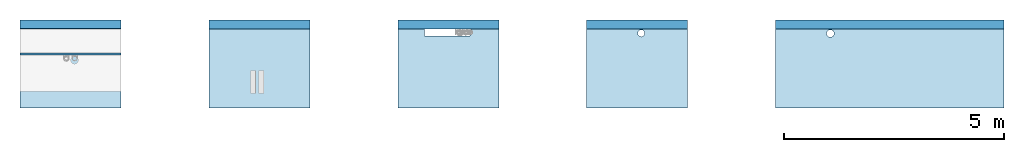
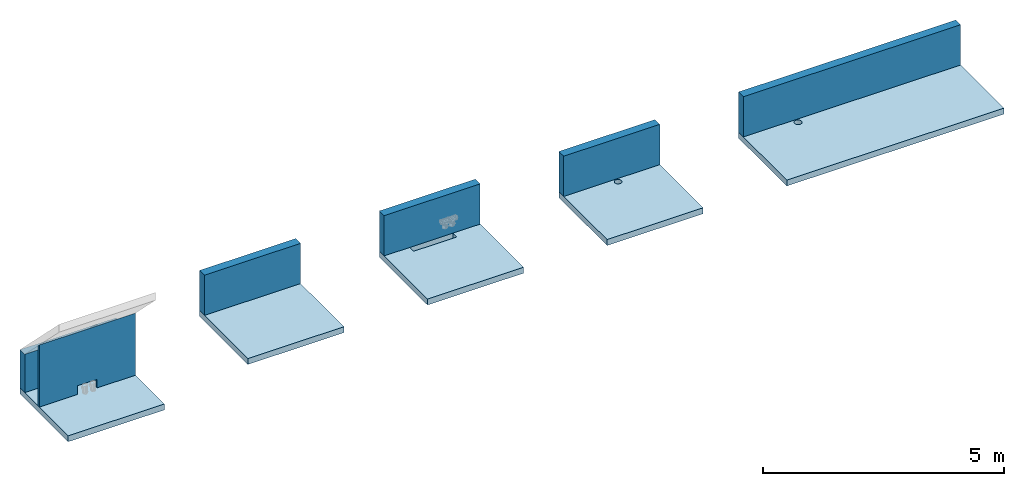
# One storey, part 1 of 3: 6 walls, 5 slabs, 1 opening.
"""IFC4 building model written with IfcOpenShell, lengths in millimetres."""

import ifcopenshell
import ifcopenshell.guid

model = None  # the IFC model being written
_history = None  # IfcOwnerHistory: only IFC2X3 demands one
_inside = {}  # id of a spatial element -> (the spatial element, [elements in it])
_under = {}  # id of a project, library or spatial element -> (it, [spatial elements below it])
_declared = {}  # id of a project -> (the project, [libraries it declares])
_typed = {}  # id of a type object -> (the type object, [elements of that type])
_made_of = {}  # id of a material, layer set ... -> (it, [elements and type objects made of it])


def new_model(schema):
    """Start an empty IFC model of exactly this schema.

    Asked for "IFC4X3", IfcOpenShell would pick the latest addendum, in which some entities
    have other attributes; the version numbers below select the first issue.
    IFC2X3 requires an IfcOwnerHistory on every rooted entity: one is made here for all.
    """
    global model, _history
    if schema == "IFC4X3":
        model = ifcopenshell.file(schema_version=(4, 3, 0, 0))
    else:
        model = ifcopenshell.file(schema=schema)
    _inside.clear()
    _under.clear()
    _declared.clear()
    _typed.clear()
    _made_of.clear()
    _history = None
    if model.schema == "IFC2X3":
        org = make("IfcOrganization", Name="unknown")
        user = make(
            "IfcPersonAndOrganization",
            ThePerson=make("IfcPerson", FamilyName="unknown"),
            TheOrganization=org,
        )
        app = make(
            "IfcApplication",
            ApplicationDeveloper=org,
            Version="unknown",
            ApplicationFullName="unknown",
            ApplicationIdentifier="unknown",
        )
        _history = make(
            "IfcOwnerHistory",
            OwningUser=user,
            OwningApplication=app,
            ChangeAction="ADDED",
            CreationDate=0,
        )
    return model


def make(cls, **values):
    """One entity of the class cls with the attributes given. An attribute that is None is left unset."""
    return model.create_entity(
        cls, **{name: value for name, value in values.items() if value is not None}
    )


def entity(cls, *values):
    """Any entity or typed value of the class cls, its attributes in the order of the schema. None: left unset."""
    e = model.create_entity(cls)
    for i, value in enumerate(values):
        if value is not None:
            e[i] = value
    return e


def rooted(cls, **values):
    """An entity with a GlobalId (a new one), such as an element, a storey or a relation."""
    return make(cls, GlobalId=ifcopenshell.guid.new(), OwnerHistory=_history, **values)


def si_unit(unit_type, name, prefix=None):
    """IfcSIUnit, for example si_unit("LENGTHUNIT", "METRE", prefix="MILLI")."""
    return make("IfcSIUnit", UnitType=unit_type, Prefix=prefix, Name=name)


def converted_unit(unit_type, name, factor, base, dimensions=None, offset=None):
    """IfcConversionBasedUnit, such as the inch: factor (a typed value) times the base unit."""
    return make(
        "IfcConversionBasedUnit"
        if offset is None
        else "IfcConversionBasedUnitWithOffset",
        ConversionOffset=offset,
        Dimensions=None
        if dimensions is None
        else entity("IfcDimensionalExponents", *dimensions),
        UnitType=unit_type,
        Name=name,
        ConversionFactor=make(
            "IfcMeasureWithUnit", ValueComponent=factor, UnitComponent=base
        ),
    )


def derived_unit(unit_type, elements):
    """IfcDerivedUnit: a product of units, each with its exponent."""
    return make(
        "IfcDerivedUnit",
        Elements=[
            make("IfcDerivedUnitElement", Unit=unit, Exponent=power)
            for unit, power in elements
        ],
        UnitType=unit_type,
    )


def assignment(units):
    """IfcUnitAssignment: the units of a project."""
    return None if units is None else make("IfcUnitAssignment", Units=units)


def point(xyz):
    """IfcCartesianPoint."""
    return None if xyz is None else make("IfcCartesianPoint", Coordinates=xyz)


def direction(xyz):
    """IfcDirection."""
    return None if xyz is None else make("IfcDirection", DirectionRatios=xyz)


def frame(location, z_axis=None, x_axis=None):
    """IfcAxis2Placement3D, a coordinate frame: its origin and axes. An axis left out is left unset."""
    return make(
        "IfcAxis2Placement3D",
        Location=point(location),
        Axis=direction(z_axis),
        RefDirection=direction(x_axis),
    )


def origin():
    """The frame at (0, 0, 0) with its axes left unset."""
    return frame((0.0, 0.0, 0.0))


def place(relative_to, where):
    """IfcLocalPlacement: puts the frame where relative to a parent placement (None: the world)."""
    return make(
        "IfcLocalPlacement", PlacementRelTo=relative_to, RelativePlacement=where
    )


def context(
    kind, dimensions, precision=None, world=None, true_north=None, identifier=None
):
    """IfcGeometricRepresentationContext, for example the 3D "Model" context."""
    return make(
        "IfcGeometricRepresentationContext",
        ContextIdentifier=identifier,
        ContextType=kind,
        CoordinateSpaceDimension=dimensions,
        Precision=precision,
        WorldCoordinateSystem=world,
        TrueNorth=true_north,
    )


def subcontext(parent, identifier, kind, view, scale=None):
    """IfcGeometricRepresentationSubContext, for example "Body" below "Model"."""
    return make(
        "IfcGeometricRepresentationSubContext",
        ContextIdentifier=identifier,
        ContextType=kind,
        ParentContext=parent,
        TargetScale=scale,
        TargetView=view,
    )


def project(units=None, contexts=None):
    """IfcProject with its units and contexts."""
    return rooted(
        "IfcProject",
        Name="project",
        RepresentationContexts=contexts,
        UnitsInContext=assignment(units),
    )


def spatial(cls, under=None, at=None, **own):
    """A site, building, storey or space (cls), placed at a placement, below another one or the project."""
    s = rooted(cls, ObjectPlacement=at, **own)
    if under is not None:
        _under.setdefault(under.id(), (under, []))[1].append(s)
    return s


def point_list(points):
    """IfcCartesianPointList2D or 3D."""
    cls = (
        "IfcCartesianPointList2D" if len(points[0]) == 2 else "IfcCartesianPointList3D"
    )
    return make(cls, CoordList=points)


def indexed_curve(points, segments=None, self_intersect=None):
    """IfcIndexedPolyCurve: lines and arcs through numbered points (the first is 1)."""
    return make(
        "IfcIndexedPolyCurve",
        Points=point_list(points),
        Segments=segments,
        SelfIntersect=self_intersect,
    )


def outline(outer, holes=None, kind="AREA"):
    """IfcArbitraryClosedProfileDef: a profile drawn as a closed curve; with holes, ...WithVoids."""
    if holes is None:
        return make("IfcArbitraryClosedProfileDef", ProfileType=kind, OuterCurve=outer)
    return make(
        "IfcArbitraryProfileDefWithVoids",
        ProfileType=kind,
        OuterCurve=outer,
        InnerCurves=holes,
    )


def extrude(swept, where, along, depth):
    """IfcExtrudedAreaSolid: the profile swept, set in the frame where, extruded along a direction by depth."""
    return make(
        "IfcExtrudedAreaSolid",
        SweptArea=swept,
        Position=where,
        ExtrudedDirection=direction(along),
        Depth=depth,
    )


def polygons(points, faces, closed=None, point_numbers=None):
    """IfcPolygonalFaceSet: a face is its outer loop, then its inner loops; points numbered from 1."""
    made = []
    for loops in faces:
        if len(loops) == 1:
            made.append(make("IfcIndexedPolygonalFace", CoordIndex=loops[0]))
        else:
            made.append(
                make(
                    "IfcIndexedPolygonalFaceWithVoids",
                    CoordIndex=loops[0],
                    InnerCoordIndices=loops[1:],
                )
            )
    return make(
        "IfcPolygonalFaceSet",
        Coordinates=point_list(points),
        Closed=closed,
        Faces=made,
        PnIndex=point_numbers,
    )


def shape(context_of_items, identifier, shape_type, items):
    """IfcShapeRepresentation: the items that make up one representation, for example the "Body"."""
    return make(
        "IfcShapeRepresentation",
        ContextOfItems=context_of_items,
        RepresentationIdentifier=identifier,
        RepresentationType=shape_type,
        Items=items,
    )


def material(Name=None, Category=None):
    """IfcMaterial."""
    return make("IfcMaterial", Name=Name, Category=Category)


def layer(
    of_material, thickness, ventilated=None, Name=None, Category=None, Priority=None
):
    """IfcMaterialLayer: one layer of a wall or slab, of a material (None: an air gap)."""
    return make(
        "IfcMaterialLayer",
        Material=of_material,
        LayerThickness=thickness,
        IsVentilated=ventilated,
        Name=Name,
        Category=Category,
        Priority=Priority,
    )


def layer_set(layers, Name=None):
    """IfcMaterialLayerSet."""
    return make("IfcMaterialLayerSet", MaterialLayers=layers, LayerSetName=Name)


def made_of(thing, what):
    """Note that an element or type object is made of a material, layer set ...; save() writes the relation."""
    if what is not None:
        _made_of.setdefault(what.id(), (what, []))[1].append(thing)
    return thing


def type_object(cls, material=None, **own):
    """A type object (cls), such as IfcWallType, which elements share."""
    return made_of(rooted(cls, **own), material)


def element(
    cls,
    number,
    at=None,
    inside=None,
    cuts=None,
    type_object=None,
    material=None,
    context=None,
    identifier="Body",
    shape_type=None,
    held_by="IfcProductDefinitionShape",
    body=None,
    shapes=None,
    **own,
):
    """One element of the class cls, such as IfcWall. Its Tag is "e" and its number.

    at: its placement. inside: the storey or other place that contains it. cuts: it is an
    opening in that element (IfcRelVoidsElement). A single representation is given by context,
    identifier, shape_type and body (its items); several are given by shapes. held_by: the class
    of the entity that holds the representations. save() writes the other relations.
    """
    e = rooted(cls, Tag="e%d" % number, ObjectPlacement=at, **own)
    if body is not None:
        shapes = [shape(context, identifier, shape_type, body)]
    if shapes is not None:
        e.Representation = make(held_by, Representations=shapes)
    if inside is not None:
        _inside.setdefault(inside.id(), (inside, []))[1].append(e)
    if cuts is not None:
        rooted(
            "IfcRelVoidsElement", RelatingBuildingElement=cuts, RelatedOpeningElement=e
        )
    if type_object is not None:
        _typed.setdefault(type_object.id(), (type_object, []))[1].append(e)
    return made_of(e, material)


def aggregate(whole, parts):
    """IfcRelAggregates: a whole, such as a stair, and the parts it consists of."""
    return rooted("IfcRelAggregates", RelatingObject=whole, RelatedObjects=parts)


def save(model, path):
    """Write the relations noted so far, then the file.

    IfcRelAggregates (storeys below a building ...), IfcRelContainedInSpatialStructure (elements
    in a storey), IfcRelDefinesByType, IfcRelAssociatesMaterial and IfcRelDeclares: one each for
    every whole, place, type object, material and project.
    """
    for whole, parts in _under.values():
        aggregate(whole, parts)
    for where, things in _inside.values():
        rooted(
            "IfcRelContainedInSpatialStructure",
            RelatedElements=things,
            RelatingStructure=where,
        )
    for kind, things in _typed.values():
        rooted("IfcRelDefinesByType", RelatedObjects=things, RelatingType=kind)
    for what, things in _made_of.values():
        rooted("IfcRelAssociatesMaterial", RelatedObjects=things, RelatingMaterial=what)
    for by, libraries in _declared.values():
        rooted("IfcRelDeclares", RelatingContext=by, RelatedDefinitions=libraries)
    model.write(path)


model = new_model("IFC4")

# Units and contexts
model_context = context("Model", 3, precision=0.01, world=origin(), true_north=direction((6.12303176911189e-17, 1.0)))
body_context = subcontext(model_context, "Body", "Model", "MODEL_VIEW")
ifc_project = project(units=[si_unit("LENGTHUNIT", "METRE", prefix="MILLI"), si_unit("AREAUNIT", "SQUARE_METRE"), si_unit("VOLUMEUNIT", "CUBIC_METRE"), converted_unit("PLANEANGLEUNIT", "DEGREE", entity("IfcRatioMeasure", 0.0174532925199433), si_unit("PLANEANGLEUNIT", "RADIAN"), dimensions=[0, 0, 0, 0, 0, 0, 0]), si_unit("MASSUNIT", "GRAM", prefix="KILO"), derived_unit("MASSDENSITYUNIT", [(si_unit("MASSUNIT", "GRAM", prefix="KILO"), 1), (si_unit("LENGTHUNIT", "METRE"), -3)]), si_unit("TIMEUNIT", "SECOND"), si_unit("FREQUENCYUNIT", "HERTZ"), si_unit("THERMODYNAMICTEMPERATUREUNIT", "DEGREE_CELSIUS"), derived_unit("THERMALTRANSMITTANCEUNIT", [(si_unit("MASSUNIT", "GRAM", prefix="KILO"), 1), (si_unit("THERMODYNAMICTEMPERATUREUNIT", "KELVIN"), -1), (si_unit("TIMEUNIT", "SECOND"), -3)]), derived_unit("VOLUMETRICFLOWRATEUNIT", [(si_unit("LENGTHUNIT", "METRE"), 3), (si_unit("TIMEUNIT", "SECOND"), -1)]), si_unit("ELECTRICCURRENTUNIT", "AMPERE"), si_unit("ELECTRICVOLTAGEUNIT", "VOLT"), si_unit("POWERUNIT", "WATT"), si_unit("FORCEUNIT", "NEWTON", prefix="KILO"), si_unit("ILLUMINANCEUNIT", "LUX"), si_unit("LUMINOUSFLUXUNIT", "LUMEN"), si_unit("LUMINOUSINTENSITYUNIT", "CANDELA"), derived_unit("USERDEFINED", [(si_unit("MASSUNIT", "GRAM", prefix="KILO"), -1), (si_unit("LENGTHUNIT", "METRE"), -2), (si_unit("TIMEUNIT", "SECOND"), 3), (si_unit("LUMINOUSFLUXUNIT", "LUMEN"), 1)]), derived_unit("LINEARVELOCITYUNIT", [(si_unit("LENGTHUNIT", "METRE"), 1), (si_unit("TIMEUNIT", "SECOND"), -1)]), si_unit("PRESSUREUNIT", "PASCAL"), derived_unit("USERDEFINED", [(si_unit("LENGTHUNIT", "METRE"), -2), (si_unit("MASSUNIT", "GRAM", prefix="KILO"), 1), (si_unit("TIMEUNIT", "SECOND"), -2)])], contexts=[model_context])

# Site, building, storey
site_placement = place(None, origin())
site = spatial("IfcSite", under=ifc_project, at=site_placement, Name="Default", CompositionType="ELEMENT")
building_placement = place(site_placement, origin())
building = spatial("IfcBuilding", under=site, at=building_placement, CompositionType="ELEMENT")
storey_placement = place(building_placement, frame((0.0, 0.0, 2313.90197154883)))
storey = spatial("IfcBuildingStorey", under=building, at=storey_placement, Name="Level 1y", CompositionType="ELEMENT", Elevation=2313.90197154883)

# Slabs
ifc_material_1 = material(Name="Glass, Clear Glazing", Category="Materials")
ifc_layer_1 = layer(ifc_material_1, 150.0, Name="Glass, Clear Glazing", Category="Materials")
ifc_layer_set_1 = layer_set([ifc_layer_1], Name="Floor:Generic 150mm (g)")
slab_type_1 = type_object("IfcSlabType", Name="Floor:Generic 150mm (g)", PredefinedType="FLOOR", material=ifc_layer_set_1)
slab_1_placement = place(storey_placement, origin())
element("IfcSlab", 1, at=slab_1_placement, inside=storey, type_object=slab_type_1, Name="Floor:Generic 150mm (g)", ObjectType="Floor:Generic 150mm (g)", PredefinedType="FLOOR", context=body_context, shape_type="SweptSolid", body=[
    extrude(outline(indexed_curve([(-1000.0, -1150.0), (1000.0, -1150.0), (1000.0, 1150.0), (-1000.0, 1150.0), (-1000.0, -1150.0)], self_intersect=False)), frame((-10734.8881114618, 2592.24351176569, 507.0), z_axis=(0.0, 0.0, -1.0), x_axis=(0.0, 1.0, 0.0)), (0.0, 0.0, 1.0), 150.0),
])
slab_type_2 = type_object("IfcSlabType", Name="Floor:Generic 150mm (g)", PredefinedType="FLOOR", material=ifc_layer_set_1)
slab_2_placement = place(storey_placement, origin())
element("IfcSlab", 2, at=slab_2_placement, inside=storey, type_object=slab_type_2, Name="Floor:Generic 150mm (g)", ObjectType="Floor:Generic 150mm (g)", PredefinedType="FLOOR", context=body_context, shape_type="SweptSolid", body=[
    extrude(outline(indexed_curve([(-2600.0, -1000.0), (2600.0, -1000.0), (2600.0, 1000.0), (-2600.0, 1000.0), (-2600.0, -1000.0)], self_intersect=False), holes=[indexed_curve([(1269.0, -692.322167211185), (1273.16019611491, -666.055722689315), (1285.23355547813, -642.360420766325), (1304.03825355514, -623.555722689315), (1327.73355547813, -611.482363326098), (1354.0, -607.322167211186), (1380.26644452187, -611.482363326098), (1403.96174644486, -623.555722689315), (1422.76644452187, -642.360420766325), (1434.83980388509, -666.055722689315), (1439.0, -692.322167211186), (1434.83980388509, -718.588611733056), (1422.76644452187, -742.283913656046), (1403.96174644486, -761.088611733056), (1380.26644452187, -773.161971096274), (1354.0, -777.322167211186), (1327.73355547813, -773.161971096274), (1304.03825355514, -761.088611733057), (1285.23355547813, -742.283913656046), (1273.16019611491, -718.588611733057), (1269.0, -692.322167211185)], self_intersect=False)]), frame((3615.11188853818, 2592.24351176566, 356.967690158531), z_axis=(0.0, 0.0, 1.0), x_axis=(-1.0, 0.0, 0.0)), (0.0, 0.0, 1.0), 150.0),
])
slab_type_3 = type_object("IfcSlabType", Name="Floor:Generic 150mm (g)", PredefinedType="FLOOR", material=ifc_layer_set_1)
slab_3_placement = place(storey_placement, origin())
element("IfcSlab", 3, at=slab_3_placement, inside=storey, type_object=slab_type_3, Name="Floor:Generic 150mm (g)", ObjectType="Floor:Generic 150mm (g)", PredefinedType="FLOOR", context=body_context, shape_type="SweptSolid", body=[
    extrude(outline(indexed_curve([(-1150.0, -1000.0), (1150.0, -1000.0), (1150.0, 1000.0), (-1150.0, 1000.0), (-1150.0, -1000.0)], self_intersect=False), holes=[indexed_curve([(-172.000000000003, -697.322167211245), (-168.084521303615, -672.600807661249), (-156.721359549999, -650.299347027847), (-139.022820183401, -632.60080766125), (-116.721359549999, -621.237645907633), (-92.0000000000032, -617.322167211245), (-67.2786404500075, -621.237645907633), (-44.9771798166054, -632.60080766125), (-27.2786404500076, -650.299347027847), (-15.9154786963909, -672.600807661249), (-12.0000000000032, -697.322167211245), (-15.9154786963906, -722.04352676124), (-27.2786404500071, -744.344987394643), (-44.9771798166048, -762.043526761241), (-67.2786404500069, -773.406688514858), (-92.0000000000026, -777.322167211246), (-116.721359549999, -773.406688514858), (-139.022820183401, -762.043526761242), (-156.721359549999, -744.344987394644), (-168.084521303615, -722.043526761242), (-172.000000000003, -697.322167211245)], self_intersect=False)]), frame((-2134.88811146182, 2592.24351176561, 356.967690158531), z_axis=(0.0, 0.0, 1.0), x_axis=(-1.0, 0.0, 0.0)), (0.0, 0.0, 1.0), 150.0),
])
slab_type_4 = type_object("IfcSlabType", Name="Floor:Generic 150mm (g)", PredefinedType="FLOOR", material=ifc_layer_set_1)
slab_4_placement = place(storey_placement, origin())
element("IfcSlab", 4, at=slab_4_placement, inside=storey, type_object=slab_type_4, Name="Floor:Generic 150mm (g)", ObjectType="Floor:Generic 150mm (g)", PredefinedType="FLOOR", context=body_context, shape_type="SweptSolid", body=[
    extrude(outline(indexed_curve([(-1150.0, -1000.0), (1150.0, -1000.0), (1150.0, 1000.0), (-1150.0, 1000.0), (-1150.0, -1000.0)], self_intersect=False), holes=[indexed_curve([(-494.999999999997, -640.000000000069), (540.000000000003, -640.000000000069), (540.000000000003, -800.000000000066), (-494.999999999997, -800.000000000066), (-494.999999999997, -640.000000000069)], self_intersect=False)]), frame((-6434.88811146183, 2592.2435117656, 356.967690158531), z_axis=(0.0, 0.0, 1.0), x_axis=(-1.0, 0.0, 0.0)), (0.0, 0.0, 1.0), 150.0),
])
slab_type_5 = type_object("IfcSlabType", Name="Floor:Generic 150mm (g)", PredefinedType="FLOOR", material=ifc_layer_set_1)
slab_5_placement = place(storey_placement, origin())
element("IfcSlab", 5, at=slab_5_placement, inside=storey, type_object=slab_type_5, Name="Floor:Generic 150mm (g)", ObjectType="Floor:Generic 150mm (g)", PredefinedType="FLOOR", context=body_context, shape_type="SweptSolid", body=[
    extrude(outline(indexed_curve([(-1000.0, -1150.0), (1000.0, -1150.0), (1000.0, 1150.0), (-1000.0, 1150.0), (-1000.0, -1150.0)], self_intersect=False)), frame((-15034.8881114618, 2592.24351176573, 57.0), z_axis=(0.0, 0.0, -1.0), x_axis=(0.0, 1.0, 0.0)), (0.0, 0.0, 1.0), 150.0),
])

# Walls
ifc_material_2 = material(Name="Default Wall", Category="Materials")
ifc_layer_2 = layer(ifc_material_2, 200.0, Name="Default Wall", Category="Materials")
ifc_layer_set_2 = layer_set([ifc_layer_2], Name="Basic Wall:Generic - 200mm")
wall_type_1 = type_object("IfcWallType", Name="Basic Wall:Generic - 200mm", PredefinedType="NOTDEFINED", material=ifc_layer_set_2)
wall_1_placement = place(storey_placement, frame((-11884.8881114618, 3492.24351176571, 507.0)))
element("IfcWall", 6, at=wall_1_placement, inside=storey, type_object=wall_type_1, material=ifc_layer_set_2, Name="Basic Wall:Generic - 200mm", ObjectType="Basic Wall:Generic - 200mm", PredefinedType="NOTDEFINED", context=body_context, shape_type="SweptSolid", body=[
    extrude(outline(indexed_curve([(2300.0, 100.0), (-3.29568256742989e-13, 100.0), (3.29568256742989e-13, -100.0), (2300.0, -100.0), (2300.0, 100.0)], self_intersect=False)), origin(), (0.0, 0.0, 1.0), 1018.26769015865),
])
wall_2_placement = place(storey_placement, frame((1015.11188853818, 3492.24351176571, 506.967690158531)))
element("IfcWall", 7, at=wall_2_placement, inside=storey, type_object=wall_type_1, material=ifc_layer_set_2, Name="Basic Wall:Generic - 200mm", ObjectType="Basic Wall:Generic - 200mm", PredefinedType="NOTDEFINED", context=body_context, shape_type="SweptSolid", body=[
    extrude(outline(indexed_curve([(5200.0, 100.0), (-5.20609196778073e-14, 100.0), (5.20609196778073e-14, -100.0), (5200.0, -100.0), (5200.0, 100.0)], self_intersect=False)), origin(), (0.0, 0.0, 1.0), 1018.30000000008),
])
wall_3_placement = place(storey_placement, frame((-3284.88811146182, 3492.24351176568, 506.967690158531)))
element("IfcWall", 8, at=wall_3_placement, inside=storey, type_object=wall_type_1, material=ifc_layer_set_2, Name="Basic Wall:Generic - 200mm", ObjectType="Basic Wall:Generic - 200mm", PredefinedType="NOTDEFINED", context=body_context, shape_type="SweptSolid", body=[
    extrude(outline(indexed_curve([(2300.0, 100.0), (2.11865307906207e-13, 100.0), (-2.11865307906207e-13, -100.0), (2300.0, -100.0), (2300.0, 100.0)], self_intersect=False)), origin(), (0.0, 0.0, 1.0), 1018.3000000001),
])
wall_4_placement = place(storey_placement, frame((-7584.88811146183, 3492.24351176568, 507.0)))
element("IfcWall", 9, at=wall_4_placement, inside=storey, type_object=wall_type_1, material=ifc_layer_set_2, Name="Basic Wall:Generic - 200mm", ObjectType="Basic Wall:Generic - 200mm", PredefinedType="NOTDEFINED", context=body_context, shape_type="SweptSolid", body=[
    extrude(outline(indexed_curve([(2300.0, 100.0), (-3.29568256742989e-13, 100.0), (3.29568256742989e-13, -100.0), (2300.0, -100.0), (2300.0, 100.0)], self_intersect=False)), origin(), (0.0, 0.0, 1.0), 1018.26769015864),
])
wall_5_placement = place(storey_placement, frame((-16184.8881114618, 3492.24351176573, 57.0)))
element("IfcWall", 10, at=wall_5_placement, inside=storey, type_object=wall_type_1, material=ifc_layer_set_2, Name="Basic Wall:Generic - 200mm", ObjectType="Basic Wall:Generic - 200mm", PredefinedType="NOTDEFINED", context=body_context, shape_type="Tessellation", body=[
    polygons([(-3.51086513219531e-13, -100.0, -2.70716782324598e-13), (2300.0, -100.0, -2.70716782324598e-13), (2300.0, -100.0, 970.277791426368), (-3.51086513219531e-13, -100.0, 970.277791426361), (-1.01022302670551e-12, 100.0, -2.70716782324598e-13), (-1.01022302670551e-12, 100.0, 968.267690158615), (2300.0, 100.0, 968.267690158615), (2300.0, 100.0, -2.70716782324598e-13), (2300.0, -97.989898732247, 968.267690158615), (-3.57711168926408e-13, -97.9898987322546, 968.267690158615)], [[[4, 1, 2, 3]], [[7, 8, 5, 6]], [[2, 1, 5, 8]], [[3, 2, 8, 7, 9]], [[1, 4, 10, 6, 5]], [[3, 9, 10, 4]], [[9, 7, 6, 10]]], closed=True),
])

# Wall, opening
ifc_layer_3 = layer(ifc_material_1, 50.0, Name="Glass, Clear Glazing", Category="Materials")
ifc_layer_set_3 = layer_set([ifc_layer_3], Name="Basic Wall:Generic - 50mm (g)")
wall_type_2 = type_object("IfcWallType", Name="Basic Wall:Generic - 50mm (g)", PredefinedType="NOTDEFINED", material=ifc_layer_set_3)
wall_6_placement = place(storey_placement, frame((-16184.8881114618, 2817.24351176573, 57.0)))
wall_6 = element("IfcWall", 11, at=wall_6_placement, inside=storey, type_object=wall_type_2, material=ifc_layer_set_3, Name="Basic Wall:Generic - 50mm (g)", ObjectType="Basic Wall:Generic - 50mm (g)", PredefinedType="NOTDEFINED", context=body_context, shape_type="Tessellation", body=[
    polygons([(-5.39411231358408e-13, -25.0000000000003, 2.70716782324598e-13), (914.999999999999, -25.0000000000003, 2.70716782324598e-13), (914.999999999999, -25.0000000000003, 218.0), (1384.99999999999, -24.9999999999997, 218.0), (1384.99999999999, -24.9999999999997, 2.70716782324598e-13), (2299.99999999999, -25.0000000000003, 2.70716782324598e-13), (2299.99999999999, -25.0000000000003, 1570.27779142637), (-5.39411231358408e-13, -25.0000000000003, 1570.27779142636), (-7.04195359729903e-13, 24.9999999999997, 2.70716782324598e-13), (-7.04195359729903e-13, 24.9999999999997, 1520.27779142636), (2300.0, 24.9999999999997, 1520.27779142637), (2299.99999999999, 24.9999999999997, 2.70716782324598e-13), (1384.99999999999, 25.0000000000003, 2.70716782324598e-13), (1384.99999999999, 25.0000000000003, 218.0), (914.999999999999, 24.9999999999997, 218.0), (914.999999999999, 24.9999999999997, 2.70716782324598e-13)], [[[1, 2, 3, 4, 5, 6, 7, 8]], [[12, 13, 14, 15, 16, 9, 10, 11]], [[2, 1, 9, 16]], [[4, 3, 15, 14]], [[6, 5, 13, 12]], [[7, 6, 12, 11]], [[3, 2, 16, 15]], [[1, 8, 10, 9]], [[5, 4, 14, 13]], [[7, 11, 10, 8]]], closed=True),
])
opening_placement = place(wall_6_placement, origin())
element("IfcOpeningElement", 12, at=opening_placement, cuts=wall_6, Name="Basic Wall:Generic - 50mm (g)", ObjectType="Opening", PredefinedType="OPENING", context=body_context, shape_type="SweptSolid", body=[
    extrude(outline(indexed_curve([(-234.999999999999, -109.0), (234.999999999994, -109.0), (234.999999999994, 109.0), (-234.999999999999, 109.0), (-234.999999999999, -109.0)], self_intersect=False)), frame((1150.0, 25.0, 109.0), z_axis=(0.0, -1.0, 0.0), x_axis=(1.0, 0.0, 0.0)), (0.0, 0.0, 1.0), 50.0),
])

save(model, "model.ifc")
